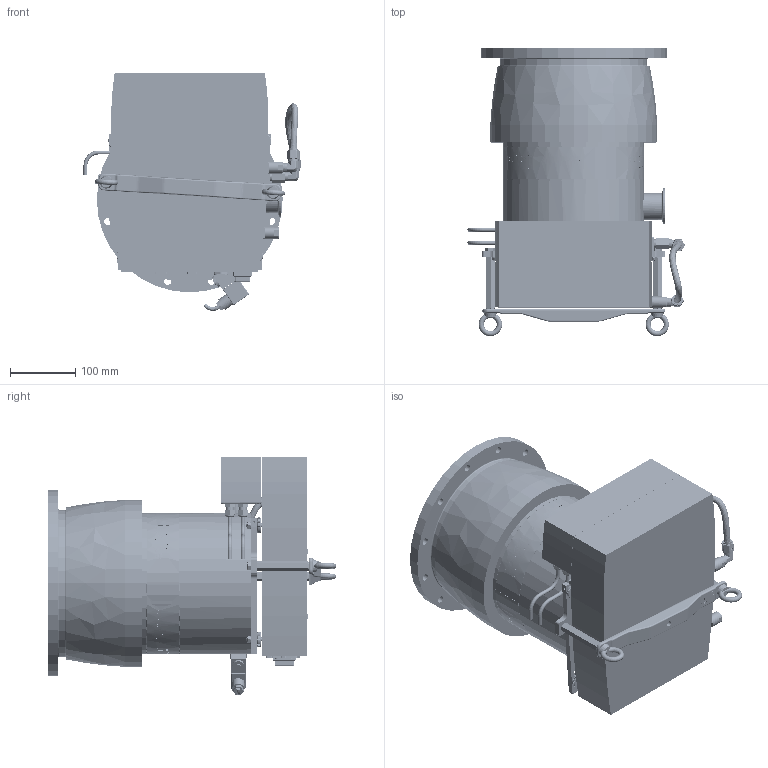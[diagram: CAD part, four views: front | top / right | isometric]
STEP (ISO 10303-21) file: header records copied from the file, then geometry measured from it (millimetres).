
FILE_DESCRIPTION((''),'2;1');
FILE_NAME('ENV-ATH1603M-YY56215C','2012-05-10T',('RCRIADO'),(''),'PRO/ENGINEER BY PARAMETRIC TECHNOLOGY CORPORATION, 2010230','PRO/ENGINEER BY PARAMETRIC TECHNOLOGY CORPORATION, 2010230','');
FILE_SCHEMA(('CONFIG_CONTROL_DESIGN'));
Products named in the file (1): ENV-ATH1603M-YY56215C
Bounding box: 332.93 x 442.15 x 364.53 mm (x, y, z)
Volume: 19900997.8 mm3; surface area: 846799.8 mm2
Topology: 11 solids, 193 shells, 6355 faces, 15597 edges, 9930 vertices
Faces by surface type: plane 2082, cylinder 1986, bspline 1306, cone 833, torus 118, sphere 28, extrusion 2
Entity records: 223512 total; most frequent: CARTESIAN_POINT 81627, ORIENTED_EDGE 31138, DIRECTION 26138, EDGE_CURVE 15569, VERTEX_POINT 9930, AXIS2_PLACEMENT_3D 9694, EDGE_LOOP 6999, VECTOR 6750
